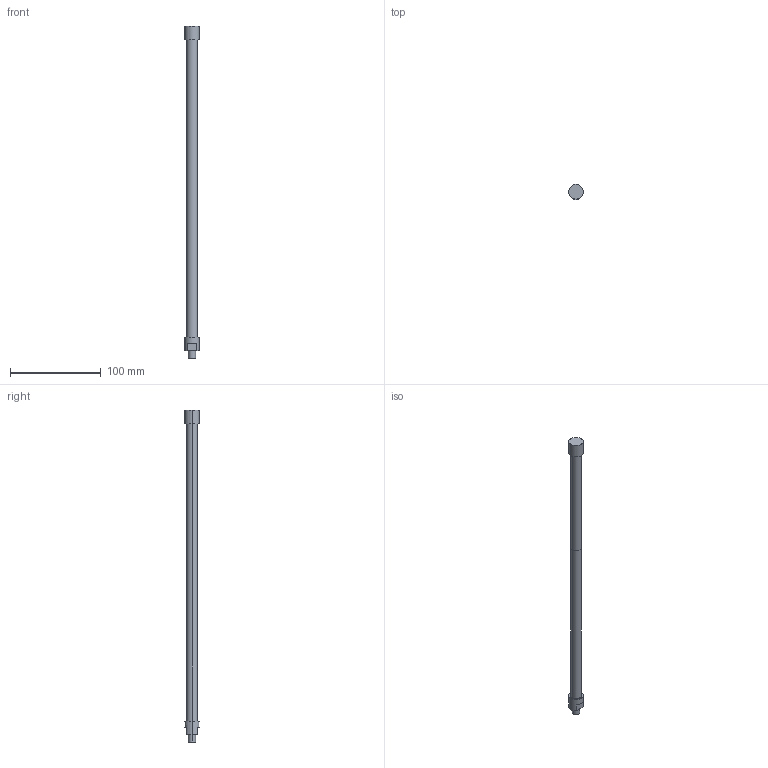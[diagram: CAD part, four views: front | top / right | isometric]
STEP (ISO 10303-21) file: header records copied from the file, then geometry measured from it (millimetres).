
FILE_DESCRIPTION(('STEP AP214'),'1');
FILE_NAME('C:/Users/Autocad/Desktop/L365-C180 MN.stp','2014-02-10T09:25:56',(' '),(' '),'Spatial InterOp 3D',' ',' ');
FILE_SCHEMA(('automotive_design'));
Length unit declared in the file: metre
Products named in the file (2): 1; 2
Bounding box: 16 x 16 x 365 mm (x, y, z)
Volume: 24140.6 mm3; surface area: 21971.6 mm2
Topology: 1 solids, 5 shells, 27 faces, 62 edges, 46 vertices
Faces by surface type: cylinder 14, plane 13
Entity records: 1056 total; most frequent: DIRECTION 158, CARTESIAN_POINT 137, ORIENTED_EDGE 112, AXIS2_PLACEMENT_3D 67, EDGE_CURVE 62, VERTEX_POINT 46, CIRCLE 38, EDGE_LOOP 32
